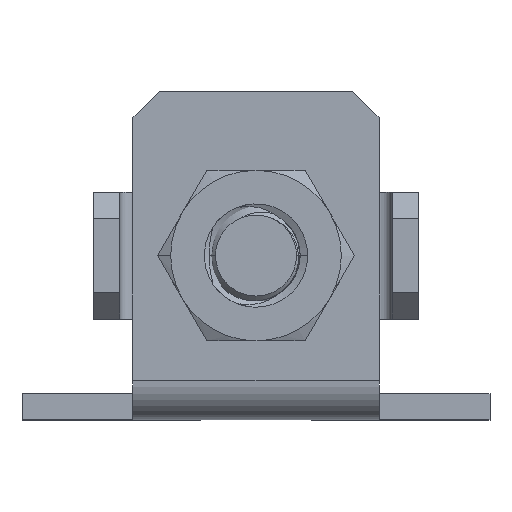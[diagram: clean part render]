
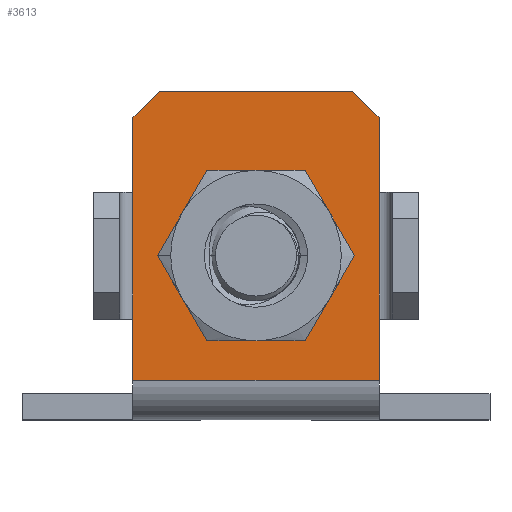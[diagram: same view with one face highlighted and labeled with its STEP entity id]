
A CAD part, top view. The second image highlights one B-rep face of the part: STEP entity #3613.
In plain terms, the highlighted planar face has unit normal (0, 0, 1).
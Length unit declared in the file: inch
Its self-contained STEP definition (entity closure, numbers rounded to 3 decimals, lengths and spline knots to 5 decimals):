
#2 = CARTESIAN_POINT ( 'NONE',  ( 0., 0.375, 0.0898 ) ) ;
#76 = DIRECTION ( 'NONE',  ( 0., 0., 1. ) ) ;
#117 = VERTEX_POINT ( 'NONE', #1704 ) ;
#162 = EDGE_CURVE ( 'NONE', #5930, #117, #7046, .T. ) ;
#176 = CARTESIAN_POINT ( 'NONE',  ( -0.28125, 0.75, 0.0898 ) ) ;
#296 = ORIENTED_EDGE ( 'NONE', *, *, #1811, .T. ) ;
#326 = LINE ( 'NONE', #2531, #6043 ) ;
#493 = DIRECTION ( 'NONE',  ( 1., 0., 0. ) ) ;
#560 = DIRECTION ( 'NONE',  ( 0., 0., -1. ) ) ;
#664 = EDGE_CURVE ( 'NONE', #6201, #1780, #6815, .T. ) ;
#784 = DIRECTION ( 'NONE',  ( 0., -1., 0. ) ) ;
#785 = CARTESIAN_POINT ( 'NONE',  ( 0.28125, 0.69, 0.0898 ) ) ;
#827 = EDGE_CURVE ( 'NONE', #5049, #5930, #2605, .T. ) ;
#903 = CARTESIAN_POINT ( 'NONE',  ( 0.28125, 0.0898, 0.0898 ) ) ;
#945 = VECTOR ( 'NONE', #5161, 39.37008 ) ;
#1022 = CARTESIAN_POINT ( 'NONE',  ( 0.28125, 0.75, 0.0898 ) ) ;
#1153 = EDGE_CURVE ( 'NONE', #6381, #4018, #326, .T. ) ;
#1266 = PLANE ( 'NONE',  #4243 ) ;
#1331 = VECTOR ( 'NONE', #2919, 39.37008 ) ;
#1383 = CARTESIAN_POINT ( 'NONE',  ( -0.28125, 0.23, 0.0898 ) ) ;
#1409 = VECTOR ( 'NONE', #5441, 39.37008 ) ;
#1696 = CARTESIAN_POINT ( 'NONE',  ( 0.28125, 0.52, 0.0898 ) ) ;
#1704 = CARTESIAN_POINT ( 'NONE',  ( -0.28125, 0.69, 0.0898 ) ) ;
#1713 = CARTESIAN_POINT ( 'NONE',  ( 0., 0.25, 0.0898 ) ) ;
#1737 = CARTESIAN_POINT ( 'NONE',  ( -0.28125, 0.52, 0.0898 ) ) ;
#1780 = VERTEX_POINT ( 'NONE', #1713 ) ;
#1811 = EDGE_CURVE ( 'NONE', #1780, #6201, #6309, .T. ) ;
#2166 = VECTOR ( 'NONE', #6951, 39.37008 ) ;
#2242 = ORIENTED_EDGE ( 'NONE', *, *, #2345, .F. ) ;
#2277 = DIRECTION ( 'NONE',  ( 0., 1., 0. ) ) ;
#2345 = EDGE_CURVE ( 'NONE', #5369, #4018, #5629, .T. ) ;
#2391 = EDGE_LOOP ( 'NONE', ( #3830, #296 ) ) ;
#2449 = DIRECTION ( 'NONE',  ( 0., 1., 0. ) ) ;
#2455 = ORIENTED_EDGE ( 'NONE', *, *, #6903, .F. ) ;
#2495 = ORIENTED_EDGE ( 'NONE', *, *, #5737, .F. ) ;
#2531 = CARTESIAN_POINT ( 'NONE',  ( 0.48563, 0.48562, 0.0898 ) ) ;
#2597 = DIRECTION ( 'NONE',  ( -0.707, 0.707, 0. ) ) ;
#2605 = LINE ( 'NONE', #1383, #2166 ) ;
#2692 = EDGE_CURVE ( 'NONE', #6381, #5114, #7301, .T. ) ;
#2919 = DIRECTION ( 'NONE',  ( 0., -1., 0. ) ) ;
#2937 = ORIENTED_EDGE ( 'NONE', *, *, #162, .F. ) ;
#2985 = CARTESIAN_POINT ( 'NONE',  ( 0., 0.5, 0.0898 ) ) ;
#3049 = CARTESIAN_POINT ( 'NONE',  ( 0.28125, 0.52, 0.0898 ) ) ;
#3147 = CARTESIAN_POINT ( 'NONE',  ( 0., 0.0898, 0.0898 ) ) ;
#3232 = CARTESIAN_POINT ( 'NONE',  ( -0.48562, 0.48563, 0.0898 ) ) ;
#3243 = CARTESIAN_POINT ( 'NONE',  ( 0., 0.375, 0.0898 ) ) ;
#3249 = DIRECTION ( 'NONE',  ( 0., -1., 0. ) ) ;
#3285 = CARTESIAN_POINT ( 'NONE',  ( 0.28125, 0.0598, 0.0898 ) ) ;
#3349 = VECTOR ( 'NONE', #7121, 39.37008 ) ;
#3394 = VERTEX_POINT ( 'NONE', #903 ) ;
#3441 = CARTESIAN_POINT ( 'NONE',  ( -0.28125, 0.23, 0.0898 ) ) ;
#3605 = FACE_OUTER_BOUND ( 'NONE', #6587, .T. ) ;
#3613 = ADVANCED_FACE ( 'NONE', ( #4075, #3605 ), #1266, .T. ) ;
#3654 = AXIS2_PLACEMENT_3D ( 'NONE', #3243, #7288, #4492 ) ;
#3690 = CARTESIAN_POINT ( 'NONE',  ( -0.22125, 0.75, 0.0898 ) ) ;
#3698 = EDGE_CURVE ( 'NONE', #5369, #117, #4885, .T. ) ;
#3787 = VECTOR ( 'NONE', #5917, 39.37008 ) ;
#3830 = ORIENTED_EDGE ( 'NONE', *, *, #664, .T. ) ;
#4018 = VERTEX_POINT ( 'NONE', #7048 ) ;
#4075 = FACE_BOUND ( 'NONE', #2391, .T. ) ;
#4243 = AXIS2_PLACEMENT_3D ( 'NONE', #5847, #76, #784 ) ;
#4492 = DIRECTION ( 'NONE',  ( 0., 1., 0. ) ) ;
#4541 = LINE ( 'NONE', #7264, #945 ) ;
#4559 = VERTEX_POINT ( 'NONE', #6467 ) ;
#4702 = VECTOR ( 'NONE', #2449, 39.37008 ) ;
#4885 = LINE ( 'NONE', #3232, #1409 ) ;
#4985 = VECTOR ( 'NONE', #493, 39.37008 ) ;
#4995 = VECTOR ( 'NONE', #3249, 39.37008 ) ;
#5049 = VERTEX_POINT ( 'NONE', #3441 ) ;
#5114 = VERTEX_POINT ( 'NONE', #1696 ) ;
#5161 = DIRECTION ( 'NONE',  ( 0., 1., 0. ) ) ;
#5333 = ORIENTED_EDGE ( 'NONE', *, *, #827, .F. ) ;
#5369 = VERTEX_POINT ( 'NONE', #3690 ) ;
#5387 = ORIENTED_EDGE ( 'NONE', *, *, #3698, .T. ) ;
#5441 = DIRECTION ( 'NONE',  ( -0.707, -0.707, 0. ) ) ;
#5571 = ORIENTED_EDGE ( 'NONE', *, *, #6755, .F. ) ;
#5629 = LINE ( 'NONE', #1022, #4985 ) ;
#5737 = EDGE_CURVE ( 'NONE', #5114, #6662, #6358, .T. ) ;
#5831 = AXIS2_PLACEMENT_3D ( 'NONE', #2, #560, #2277 ) ;
#5847 = CARTESIAN_POINT ( 'NONE',  ( 0., 0., 0.0898 ) ) ;
#5865 = CARTESIAN_POINT ( 'NONE',  ( 0.28125, 0.23, 0.0898 ) ) ;
#5917 = DIRECTION ( 'NONE',  ( 0., -1., 0. ) ) ;
#5930 = VERTEX_POINT ( 'NONE', #1737 ) ;
#6043 = VECTOR ( 'NONE', #2597, 39.37008 ) ;
#6089 = EDGE_CURVE ( 'NONE', #4559, #3394, #6606, .T. ) ;
#6162 = ORIENTED_EDGE ( 'NONE', *, *, #2692, .F. ) ;
#6201 = VERTEX_POINT ( 'NONE', #2985 ) ;
#6309 = CIRCLE ( 'NONE', #5831, 0.125 ) ;
#6358 = LINE ( 'NONE', #3049, #3787 ) ;
#6362 = ORIENTED_EDGE ( 'NONE', *, *, #1153, .T. ) ;
#6381 = VERTEX_POINT ( 'NONE', #785 ) ;
#6467 = CARTESIAN_POINT ( 'NONE',  ( -0.28125, 0.0898, 0.0898 ) ) ;
#6493 = LINE ( 'NONE', #3285, #4995 ) ;
#6587 = EDGE_LOOP ( 'NONE', ( #6162, #6362, #2242, #5387, #2937, #5333, #2455, #6775, #5571, #2495 ) ) ;
#6606 = LINE ( 'NONE', #3147, #3349 ) ;
#6662 = VERTEX_POINT ( 'NONE', #5865 ) ;
#6755 = EDGE_CURVE ( 'NONE', #6662, #3394, #6493, .T. ) ;
#6775 = ORIENTED_EDGE ( 'NONE', *, *, #6089, .T. ) ;
#6815 = CIRCLE ( 'NONE', #3654, 0.125 ) ;
#6818 = CARTESIAN_POINT ( 'NONE',  ( 0.28125, 0.0598, 0.0898 ) ) ;
#6903 = EDGE_CURVE ( 'NONE', #4559, #5049, #4541, .T. ) ;
#6951 = DIRECTION ( 'NONE',  ( 0., 1., 0. ) ) ;
#7046 = LINE ( 'NONE', #176, #4702 ) ;
#7048 = CARTESIAN_POINT ( 'NONE',  ( 0.22125, 0.75, 0.0898 ) ) ;
#7121 = DIRECTION ( 'NONE',  ( 1., 0., 0. ) ) ;
#7264 = CARTESIAN_POINT ( 'NONE',  ( -0.28125, 0.75, 0.0898 ) ) ;
#7288 = DIRECTION ( 'NONE',  ( 0., 0., -1. ) ) ;
#7301 = LINE ( 'NONE', #6818, #1331 ) ;
